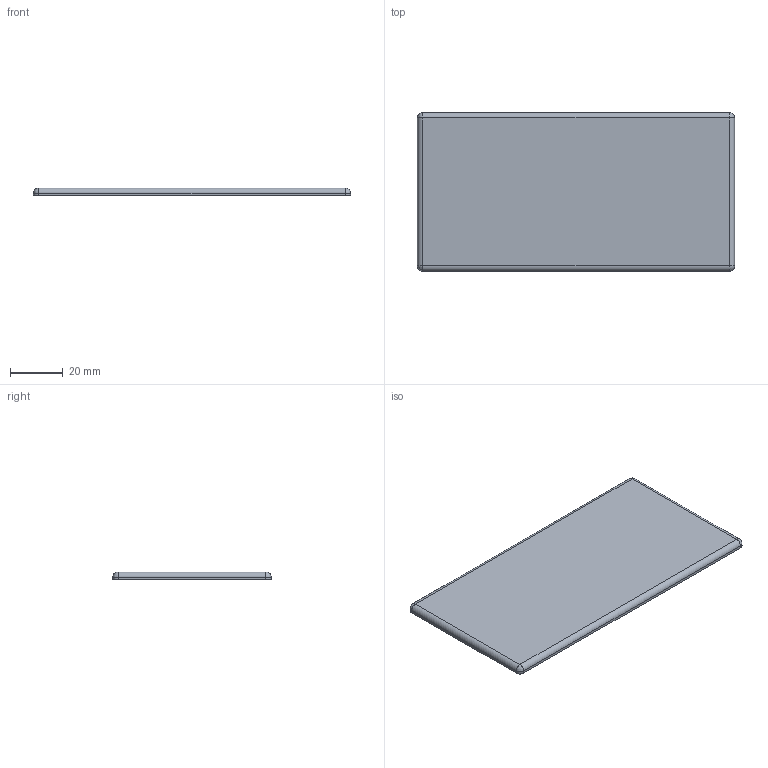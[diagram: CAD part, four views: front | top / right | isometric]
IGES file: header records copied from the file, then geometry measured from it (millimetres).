
Start section: SolidWorks IGES file using analytic representation for surfaces
Global section: file name: C:\Documents and Settings\Administrator\デスクトップ\指定保存後3回目\SolidWorks\SF\SF30\Parts\SFA-018.IGS; native system: SolidWorks 2006 by SolidWorks Corporation; preprocessor: SolidWorks 2006 by SolidWorks Corporation; author: Administrator; date: 061213.104650; units: millimetre
Bounding box: 120 x 60 x 3 mm (x, y, z)
Surface area: 15155 mm2 (no closed solid volume)
Topology: 0 solids, 0 shells, 18 faces, 140 edges, 172 vertices
Faces by surface type: revolution 12, bspline 6
